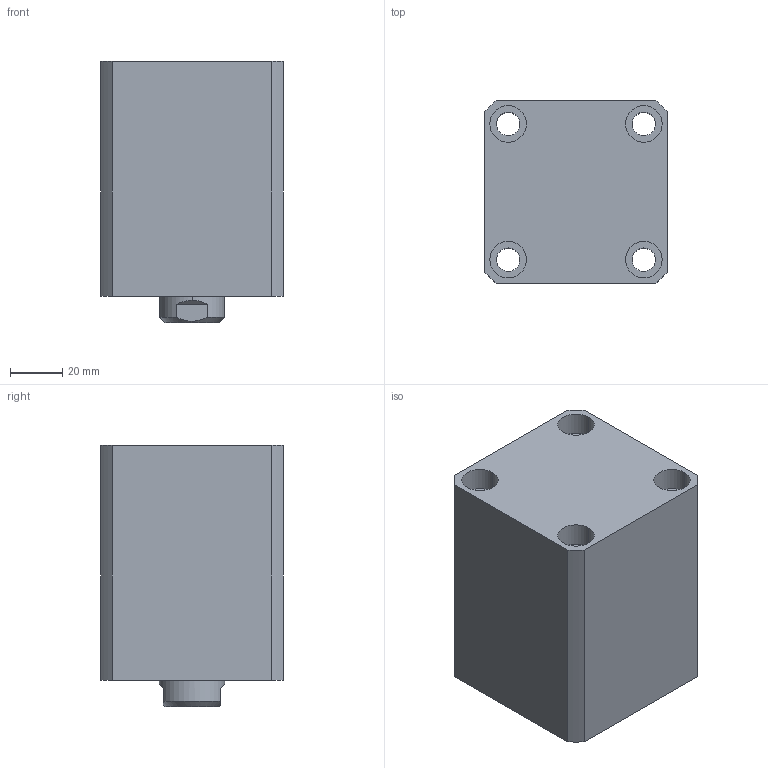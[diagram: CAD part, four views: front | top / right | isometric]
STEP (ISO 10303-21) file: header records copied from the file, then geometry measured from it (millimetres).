
FILE_DESCRIPTION (( 'STEP AP214' ), '1' );
FILE_NAME ('chtb-sd40x35n_asm.STEP', '2018-06-07T07:48:14', ( 'Windows' ), ( 'Microsoft' ), 'SwSTEP 2.0', 'SolidWorks 2015', '' );
FILE_SCHEMA (( 'AUTOMOTIVE_DESIGN' ));
Length unit declared in the file: millimetre
Products named in the file (4): CHTB-SD40QG; CHTB-SD40X35NHSG; CHTB-SD40X35NBT; chtb-sd40x35n_asm
Assembly tree (3 placements, depth 2):
  chtb-sd40x35n_asm
    CHTB-SD40X35NBT
    CHTB-SD40X35NHSG
    CHTB-SD40QG
Bounding box: 70 x 70 x 100 mm (x, y, z)
Volume: 374084.1 mm3; surface area: 79639.3 mm2
Topology: 3 solids, 3 shells, 157 faces, 401 edges, 266 vertices
Faces by surface type: cylinder 80, plane 36, torus 14, bspline 14, cone 13
Entity records: 9977 total; most frequent: CARTESIAN_POINT 6053, ORIENTED_EDGE 790, DIRECTION 768, EDGE_CURVE 395, AXIS2_PLACEMENT_3D 328, VERTEX_POINT 266, EDGE_LOOP 193, CIRCLE 179
